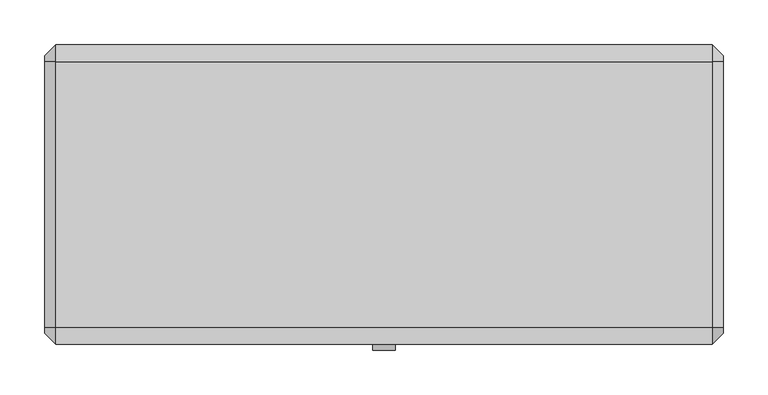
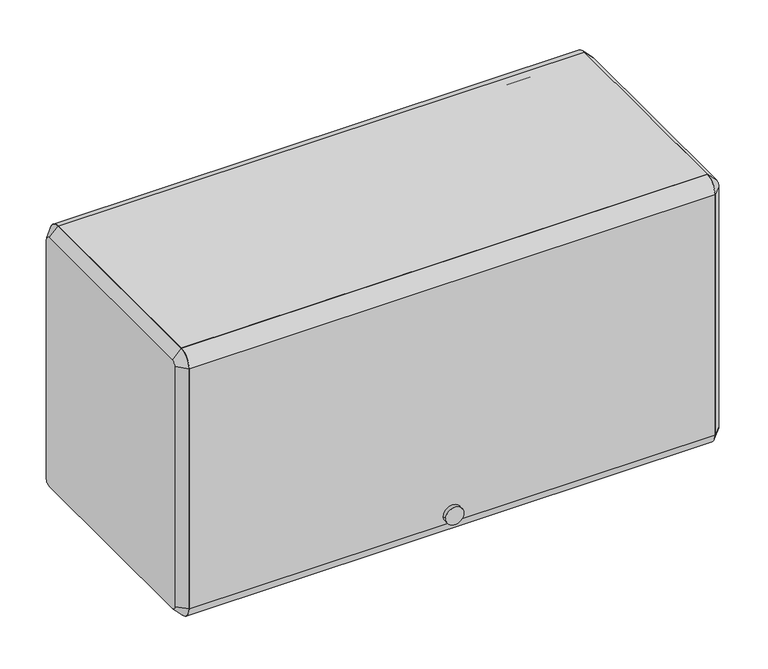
"""IFC4 building model written with IfcOpenShell, lengths in millimetres: furniture geometry."""

from ifc_helpers import new_model, si_unit, point, frame, frame_2d, origin, place, context, project, spatial, polyline, circle_curve, trimmed, segment, composite_curve, outline, extrude, source, transform, mapped, element, save
from ifc_brep_helpers import plane_surface, revolved_surface, advanced_brep


def furniture_2b6507ba(model_context):
    return source(origin(), model_context, "Body", "SolidModel", [
        extrude(outline(composite_curve([segment(polyline([(-136.525, 1781.556), (-136.525, 1794.256), (161.925, 1794.256)]), True, "CONTINUOUS"), segment(trimmed(circle_curve(frame_2d((161.925, 1775.206)), 19.05), [point((161.925, 1794.256))], [point((180.975, 1775.206))], False, "CARTESIAN"), True, "CONTINUOUS"), segment(polyline([(180.975, 1775.206), (168.275, 1775.206)]), True, "CONTINUOUS"), segment(trimmed(circle_curve(frame_2d((161.925, 1775.206)), 6.35), [point((168.275, 1775.206))], [point((161.925, 1781.556))], True, "CARTESIAN"), True, "CONTINUOUS"), segment(polyline([(161.925, 1781.556), (-136.525, 1781.556)]), True, "CONTINUOUS")], self_intersect=False)), frame((-368.3, 0.0, 0.0), z_axis=(1.0, 0.0, 0.0), x_axis=(0.0, 1.0, 0.0)), (0.0, 0.0, 1.0), 736.6),
        extrude(outline(composite_curve([segment(trimmed(circle_curve(frame_2d((-136.525, 1775.206)), 19.05), [point((-155.575, 1775.206))], [point((-136.525, 1794.256))], False, "CARTESIAN"), True, "CONTINUOUS"), segment(polyline([(-136.525, 1794.256), (-136.525, 1781.556)]), True, "CONTINUOUS"), segment(trimmed(circle_curve(frame_2d((-136.525, 1775.206)), 6.35), [point((-136.525, 1781.556))], [point((-142.875, 1775.206))], True, "CARTESIAN"), True, "CONTINUOUS"), segment(polyline([(-142.875, 1775.206), (-142.875, 1419.606)]), True, "CONTINUOUS"), segment(trimmed(circle_curve(frame_2d((-136.525, 1419.606)), 6.35), [point((-142.875, 1419.606))], [point((-136.525, 1413.256))], True, "CARTESIAN"), True, "CONTINUOUS"), segment(polyline([(-136.525, 1413.256), (-136.525, 1400.556)]), True, "CONTINUOUS"), segment(trimmed(circle_curve(frame_2d((-136.525, 1419.606)), 19.05), [point((-136.525, 1400.556))], [point((-155.575, 1419.606))], False, "CARTESIAN"), True, "CONTINUOUS"), segment(polyline([(-155.575, 1419.606), (-155.575, 1775.206)]), True, "CONTINUOUS")], self_intersect=False)), frame((-368.3, 0.0, 0.0), z_axis=(1.0, 0.0, 0.0), x_axis=(0.0, 1.0, 0.0)), (0.0, 0.0, 1.0), 736.6),
        extrude(outline(composite_curve([segment(trimmed(circle_curve(frame_2d((1432.2678906, 0.0201199)), 12.7253951), [point((1432.2678906, 12.745515))], [point((1432.2678906, -12.7052752))], False, "CARTESIAN"), True, "CONTINUOUS"), segment(trimmed(circle_curve(frame_2d((1432.2678906, 0.0201199)), 12.7253951), [point((1432.2678906, -12.7052752))], [point((1432.2678906, 12.745515))], False, "CARTESIAN"), True, "CONTINUOUS")], self_intersect=False)), frame((0.0, -161.925, 0.0), z_axis=(0.0, 1.0, 0.0), x_axis=(0.0, 0.0, 1.0)), (0.0, 0.0, 1.0), 6.35),
        extrude(outline(polyline([(-136.525, 1438.656), (161.925, 1438.656), (161.925, 1476.756), (174.625, 1476.756), (174.625, 1473.581), (165.1, 1473.581), (165.1, 1435.481), (-133.35, 1435.481), (-133.35, 1416.431), (-136.525, 1416.431), (-136.525, 1438.656)])), frame((-368.3, 0.0, 0.0), z_axis=(1.0, 0.0, 0.0), x_axis=(0.0, 1.0, 0.0)), (0.0, 0.0, 1.0), 736.6),
        advanced_brep(
        [(381.0, 161.925, 1781.556), (381.0, -136.525, 1781.556), (381.0, -142.875, 1775.206), (381.0, -142.875, 1419.606), (381.0, -136.525, 1413.256), (381.0, 161.925, 1413.256), (381.0, 168.275, 1419.606), (381.0, 168.275, 1775.206), (368.3, 161.925, 1794.256), (368.3, 180.975, 1775.206), (368.3, 180.975, 1419.606), (368.3, 161.925, 1400.556), (368.3, -136.525, 1400.556), (368.3, -155.575, 1419.606), (368.3, -155.575, 1775.206), (368.3, -136.525, 1794.256)],
        [
            (0, 1),
            (1, 2, circle_curve(frame((381.0, -136.525, 1775.206), z_axis=(1.0, 6.490807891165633e-12, -6.586731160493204e-12), x_axis=(6.586694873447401e-12, 0.0, 1.0)), 6.35)),
            (2, 3),
            (3, 4, circle_curve(frame((381.0, -136.525, 1419.606), z_axis=(1.0, 3.3746339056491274e-12, 3.3679725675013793e-12), x_axis=(3.3745997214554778e-12, -1.0, 0.0)), 6.35)),
            (4, 5),
            (5, 6, circle_curve(frame((381.0, 161.925, 1419.606), z_axis=(1.0, 3.378630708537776e-12, -3.3892888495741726e-12), x_axis=(-3.38935859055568e-12, 0.0, -1.0)), 6.35)),
            (6, 7),
            (7, 0, circle_curve(frame((381.0, 161.925, 1775.206), z_axis=(1.0, 6.482814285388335e-12, 6.3948846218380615e-12), x_axis=(-6.482754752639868e-12, 1.0, 0.0)), 6.35)),
            (8, 9, circle_curve(frame((368.3, 161.925, 1775.206), z_axis=(-1.0, -6.482814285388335e-12, -6.3948846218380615e-12), x_axis=(-6.482754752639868e-12, 1.0, 0.0)), 19.05)),
            (9, 10),
            (10, 11, circle_curve(frame((368.3, 161.925, 1419.606), z_axis=(-1.0, -3.378630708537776e-12, 3.3892888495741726e-12), x_axis=(-3.38935859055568e-12, 0.0, -1.0)), 19.05)),
            (11, 12),
            (12, 13, circle_curve(frame((368.3, -136.525, 1419.606), z_axis=(-1.0, -3.3746339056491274e-12, -3.3679725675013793e-12), x_axis=(3.3745997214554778e-12, -1.0, 0.0)), 19.05)),
            (13, 14),
            (14, 15, circle_curve(frame((368.3, -136.525, 1775.206), z_axis=(-1.0, -6.490807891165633e-12, 6.586731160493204e-12), x_axis=(6.586694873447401e-12, 0.0, 1.0)), 19.05)),
            (15, 8),
            (15, 1),
            (0, 8),
            (14, 2),
            (13, 3),
            (12, 4),
            (11, 5),
            (10, 6),
            (9, 7),
        ],
        [
            plane_surface(frame((381.0, 12.7, 1597.406), z_axis=(1.0, 0.0, 0.0), x_axis=(0.0, -1.0, 0.0))),
            plane_surface(frame((368.3, 12.7, 1597.406), z_axis=(-1.0, 0.0, 0.0), x_axis=(0.0, -1.0, 0.0))),
            plane_surface(frame((368.3, 12.7, 1794.256), z_axis=(0.707106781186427, 0.0, 0.7071067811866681), x_axis=(0.0, -1.0, 0.0))),
            revolved_surface(polyline([(381.00000000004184, -136.525, 1781.5559999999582), (368.3, -136.525, 1794.256)]), (387.35, -136.525, 1775.206), (-1.0, -6.490807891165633e-12, 6.586731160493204e-12)),
            plane_surface(frame((368.3, -155.575, 1597.406), z_axis=(0.7071067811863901, -0.7071067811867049, 0.0), x_axis=(0.0, 0.0, -1.0))),
            revolved_surface(polyline([(381.00000000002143, -142.8749999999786, 1419.606), (368.3, -155.575, 1419.606)]), (387.35, -136.525, 1419.606), (-1.0, -3.3746339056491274e-12, -3.3679725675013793e-12)),
            plane_surface(frame((368.3, 12.7, 1400.556), z_axis=(0.7071067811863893, 0.0, -0.7071067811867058), x_axis=(0.0, 1.0, 0.0))),
            revolved_surface(polyline([(381.0, 161.925, 1413.256), (368.29999999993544, 161.925, 1400.5559999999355)]), (387.35, 161.925, 1419.606), (-1.0, -3.378630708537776e-12, 3.3892888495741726e-12)),
            plane_surface(frame((368.3, 180.975, 1597.406), z_axis=(0.7071067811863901, 0.7071067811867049, 0.0), x_axis=(0.0, 0.0, 1.0))),
            revolved_surface(polyline([(381.0, 168.27500000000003, 1775.206), (368.2999999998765, 180.9750000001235, 1775.206)]), (387.35, 161.925, 1775.206), (-1.0, -6.482814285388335e-12, -6.3948846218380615e-12)),
        ],
        [
            (0, [[1, 2, 3, 4, 5, 6, 7, 8]]),
            (1, [[9, 10, 11, 12, 13, 14, 15, 16]]),
            (2, [[-16, 17, -1, 18]]),
            (3, [[-15, 19, -2, -17]]),
            (4, [[-14, 20, -3, -19]]),
            (5, [[-13, 21, -4, -20]]),
            (6, [[-12, 22, -5, -21]]),
            (7, [[-11, 23, -6, -22]]),
            (8, [[-10, 24, -7, -23]]),
            (9, [[-9, -18, -8, -24]]),
        ],
    ),
        advanced_brep(
        [(-381.0, -136.525, 1781.556), (-381.0, 161.925, 1781.556), (-381.0, 168.275, 1775.206), (-381.0, 168.275, 1419.606), (-381.0, 161.925, 1413.256), (-381.0, -136.525, 1413.256), (-381.0, -142.875, 1419.606), (-381.0, -142.875, 1775.206), (-368.3, -136.525, 1794.256), (-368.3, -155.575, 1775.206), (-368.3, -155.575, 1419.606), (-368.3, -136.525, 1400.556), (-368.3, 161.925, 1400.556), (-368.3, 180.975, 1419.606), (-368.3, 180.975, 1775.206), (-368.3, 161.925, 1794.256)],
        [
            (0, 1),
            (1, 2, circle_curve(frame((-381.0, 161.925, 1775.206), z_axis=(-1.0, 3.3653080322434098e-12, 3.453237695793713e-12), x_axis=(3.453261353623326e-12, 0.0, 1.0)), 6.35)),
            (2, 3),
            (3, 4, circle_curve(frame((-381.0, 161.925, 1419.606), z_axis=(-1.0, 0.0, 0.0), x_axis=(0.0, 1.0, 0.0)), 6.35)),
            (4, 5),
            (5, 6, circle_curve(frame((-381.0, -136.525, 1419.606), z_axis=(-1.0, 0.0, 0.0), x_axis=(0.0, 0.0, -1.0)), 6.35)),
            (6, 7),
            (7, 0, circle_curve(frame((-381.0, -136.525, 1775.206), z_axis=(-1.0, 3.3812952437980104e-12, -3.304023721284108e-12), x_axis=(-3.381351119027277e-12, -1.0, 0.0)), 6.35)),
            (8, 9, circle_curve(frame((-368.3, -136.525, 1775.206), z_axis=(1.0, -3.3812952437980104e-12, 3.304023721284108e-12), x_axis=(-3.381351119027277e-12, -1.0, 0.0)), 19.05)),
            (9, 10),
            (10, 11, circle_curve(frame((-368.3, -136.525, 1419.606), z_axis=(1.0, 0.0, 0.0), x_axis=(0.0, 0.0, -1.0)), 19.05)),
            (11, 12),
            (12, 13, circle_curve(frame((-368.3, 161.925, 1419.606), z_axis=(1.0, 0.0, 0.0), x_axis=(0.0, 1.0, 0.0)), 19.05)),
            (13, 14),
            (14, 15, circle_curve(frame((-368.3, 161.925, 1775.206), z_axis=(1.0, -3.3653080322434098e-12, -3.453237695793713e-12), x_axis=(3.453261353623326e-12, 0.0, 1.0)), 19.05)),
            (15, 8),
            (15, 1),
            (0, 8),
            (14, 2),
            (13, 3),
            (12, 4),
            (11, 5),
            (10, 6),
            (9, 7),
        ],
        [
            plane_surface(frame((-381.0, 12.7, 1597.406), z_axis=(-1.0, 0.0, 0.0), x_axis=(0.0, -1.0, 0.0))),
            plane_surface(frame((-368.3, 12.7, 1597.406), z_axis=(1.0, 0.0, 0.0), x_axis=(0.0, -1.0, 0.0))),
            plane_surface(frame((-368.3, 12.7, 1794.256), z_axis=(-0.7071067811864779, 0.0, 0.7071067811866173), x_axis=(0.0, 1.0, 0.0))),
            revolved_surface(polyline([(-381.0, 161.925, 1781.556), (-368.29999999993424, 161.925, 1794.2560000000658)]), (-387.35, 161.925, 1775.206), (1.0, -3.3653080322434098e-12, -3.453237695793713e-12)),
            plane_surface(frame((-368.3, 180.975, 1597.406), z_axis=(-0.7071067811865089, 0.7071067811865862, 0.0), x_axis=(0.0, 0.0, -1.0))),
            revolved_surface(polyline([(-381.0, 168.27500000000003, 1419.606), (-368.3, 180.975, 1419.606)]), (-387.35, 161.925, 1419.606), (1.0, 0.0, 0.0)),
            plane_surface(frame((-368.3, 12.7, 1400.556), z_axis=(-0.7071067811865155, 0.0, -0.7071067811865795), x_axis=(0.0, -1.0, 0.0))),
            revolved_surface(polyline([(-381.0, -136.525, 1413.256), (-368.3, -136.525, 1400.556)]), (-387.35, -136.525, 1419.606), (1.0, 0.0, 0.0)),
            plane_surface(frame((-368.3, -155.575, 1597.406), z_axis=(-0.7071067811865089, -0.7071067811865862, 0.0), x_axis=(0.0, 0.0, 1.0))),
            revolved_surface(polyline([(-381.0000000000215, -142.87499999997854, 1775.206), (-368.3, -155.575, 1775.206)]), (-387.35, -136.525, 1775.206), (1.0, -3.3812952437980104e-12, 3.304023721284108e-12)),
        ],
        [
            (0, [[1, 2, 3, 4, 5, 6, 7, 8]]),
            (1, [[9, 10, 11, 12, 13, 14, 15, 16]]),
            (2, [[-16, 17, -1, 18]]),
            (3, [[-15, 19, -2, -17]]),
            (4, [[-14, 20, -3, -19]]),
            (5, [[-13, 21, -4, -20]]),
            (6, [[-12, 22, -5, -21]]),
            (7, [[-11, 23, -6, -22]]),
            (8, [[-10, 24, -7, -23]]),
            (9, [[-9, -18, -8, -24]]),
        ],
    ),
    ])


if __name__ == "__main__":
    model = new_model("IFC4")
    model_context = context("Model", 3, world=origin())
    ifc_project = project(units=[si_unit("LENGTHUNIT", "METRE", prefix="MILLI")], contexts=[model_context])
    site = spatial("IfcSite", under=ifc_project)
    building = spatial("IfcBuilding", under=site)
    placement = place(None, origin())
    furniture_shape = furniture_2b6507ba(model_context)
    element("IfcFurniture", 1, ObjectType="HermanMiller_ActionOffice_A3352_B-StyleFlipperDoorUnit : 15 1/2\"H x 13\"D x 30\"W", at=placement, inside=building, context=model_context, shape_type="MappedRepresentation", body=[
        mapped(furniture_shape, transform((0.0, 0.0, 0.0), x_axis=(1.0, 0.0, 0.0), y_axis=(0.0, 1.0, 0.0), z_axis=(0.0, 0.0, 1.0))),
    ])
    save(model, "model.ifc")
